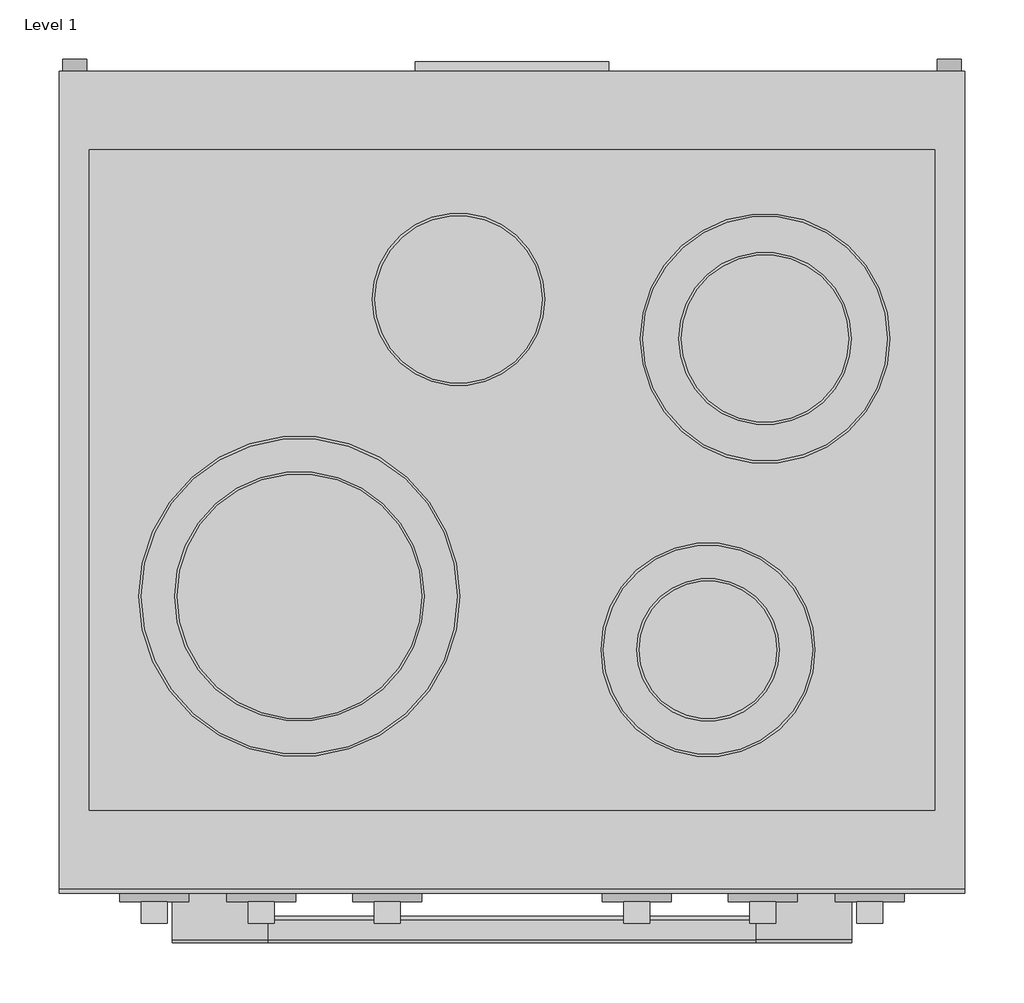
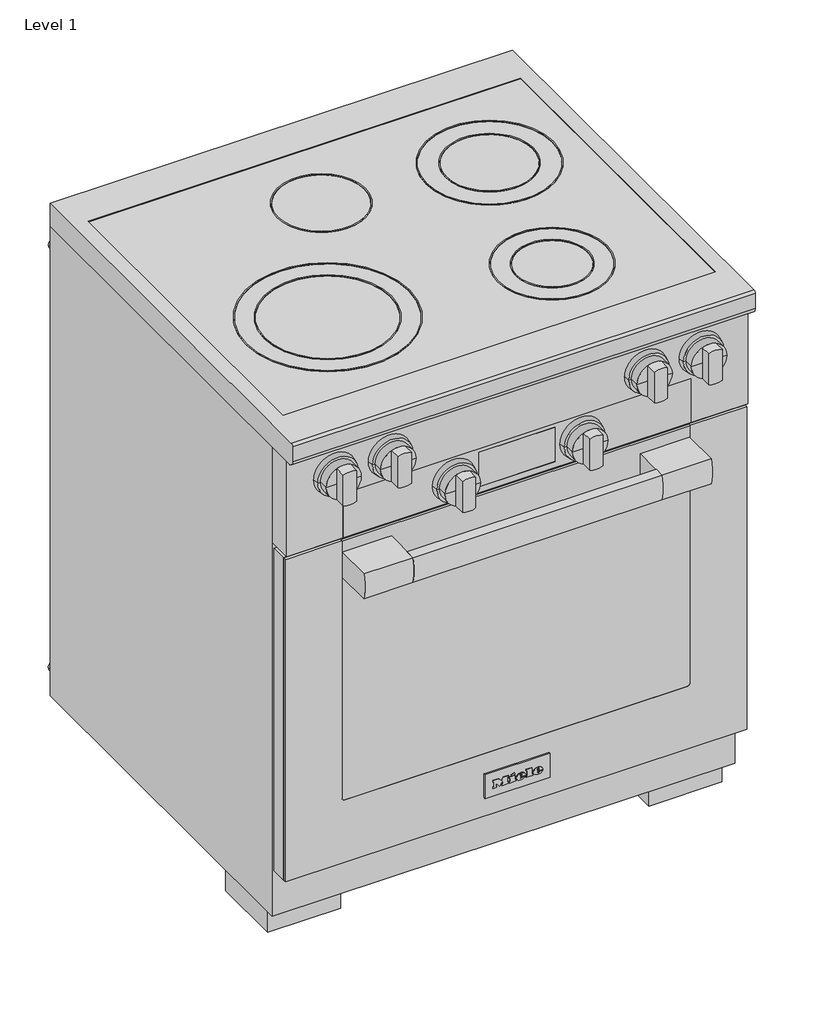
# One storey: 1 proxy.
"""IFC4 building model written with IfcOpenShell, lengths in millimetres."""

from ifc_helpers import new_model, si_unit, origin, place, context, project, spatial, transform, mapped, element, save
from components import specialty_equipment_7bc652a0, specialty_equipment_dd086f72

model = new_model("IFC4")

# Units and contexts
model_context = context("Model", 3, world=origin())
ifc_project = project(units=[si_unit("LENGTHUNIT", "METRE", prefix="MILLI")], contexts=[model_context])

# Site, building, storey
site = spatial("IfcSite", under=ifc_project)
building = spatial("IfcBuilding", under=site)
storey = spatial("IfcBuildingStorey", under=building, Name="Level 1", Elevation=0.0)

# Proxy
placement = place(None, origin())
specialty_equipment_shape = specialty_equipment_7bc652a0(model_context)
specialty_equipment_2_shape = specialty_equipment_dd086f72(model_context)
element("IfcBuildingElementProxy", 1, Name="11793360_USA_HR1421-3_EDST-CLST : 25142181_USA_11793360_HR1421-3_EDST-CLST", ObjectType="11793360_USA_HR1421-3_EDST-CLST : 25142181_USA_11793360_HR1421-3_EDST-CLST", at=placement, inside=storey, context=model_context, shape_type="MappedRepresentation", body=[
    mapped(specialty_equipment_shape, transform((0.0, 0.0, 0.0), x_axis=(1.0, 0.0, 0.0), y_axis=(0.0, 1.0, 0.0), z_axis=(0.0, 0.0, 1.0))),
    mapped(specialty_equipment_2_shape, transform((0.0, 0.0, 0.0), x_axis=(1.0, 0.0, 0.0), y_axis=(0.0, 1.0, 0.0), z_axis=(0.0, 0.0, 1.0))),
])

save(model, "model.ifc")
